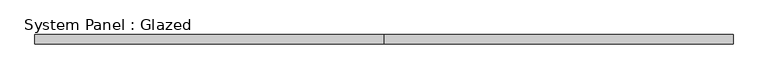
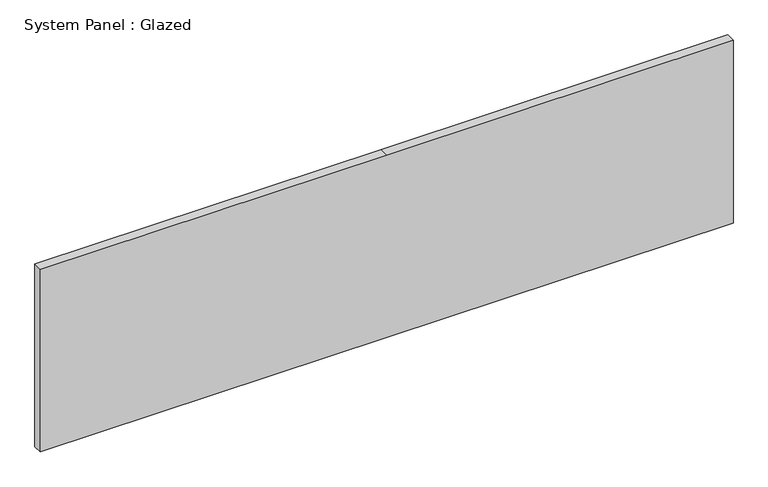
"""IFC4 building model written with IfcOpenShell, lengths in millimetres: plate geometry, System Panel : Glazed."""

from ifc_helpers import new_model, si_unit, frame, origin, place, context, project, spatial, polyline, outline, extrude, source, transform, mapped, element, save


def system_panel_glazed_ee5f99dd(model_context):
    return source(origin(), model_context, "Body", "SweptSolid", [
        extrude(outline(polyline([(0.0, -933.45), (0.0, 0.0), (0.0, 933.45), (520.7, 933.45), (520.7, 0.0), (520.7, -933.45), (0.0, -933.45)])), frame((0.0, 19.05, 0.0), z_axis=(0.0, 1.0, 0.0), x_axis=(0.0, 0.0, 1.0)), (0.0, 0.0, 1.0), 25.4),
    ])


if __name__ == "__main__":
    model = new_model("IFC4")
    model_context = context("Model", 3, world=origin())
    ifc_project = project(units=[si_unit("LENGTHUNIT", "METRE", prefix="MILLI")], contexts=[model_context])
    site = spatial("IfcSite", under=ifc_project)
    building = spatial("IfcBuilding", under=site)
    placement = place(None, origin())
    system_panel_glazed_shape = system_panel_glazed_ee5f99dd(model_context)
    element("IfcPlate", 1, ObjectType="System Panel : Glazed", at=placement, inside=building, context=model_context, shape_type="MappedRepresentation", body=[
        mapped(system_panel_glazed_shape, transform((0.0, 0.0, 0.0), x_axis=(1.0, 0.0, 0.0), y_axis=(0.0, 1.0, 0.0), z_axis=(0.0, 0.0, 1.0))),
    ])
    save(model, "model.ifc")
